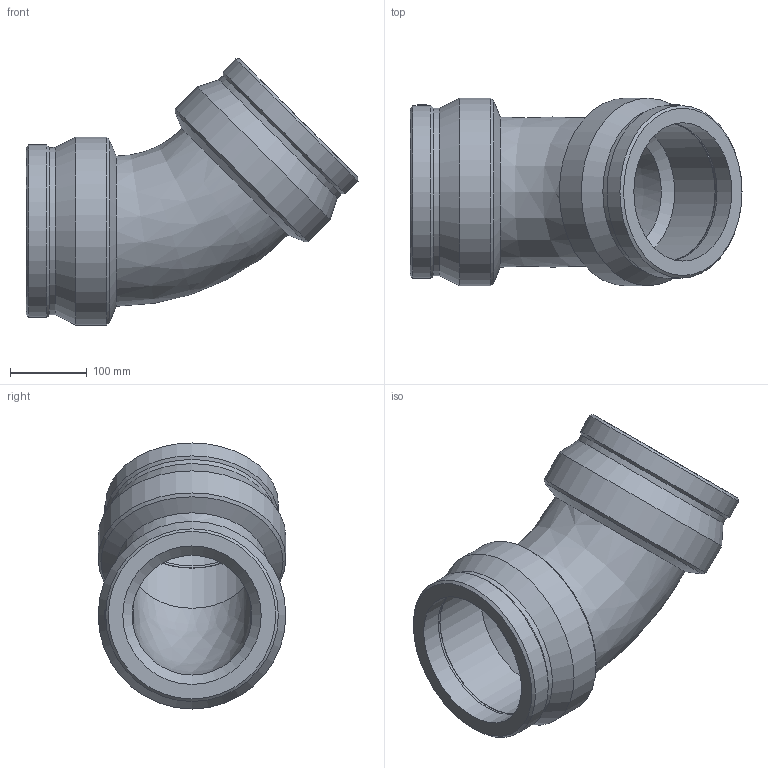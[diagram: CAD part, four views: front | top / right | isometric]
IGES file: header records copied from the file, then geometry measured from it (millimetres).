
Global section: file name: 490604180.ipt; native system: Autodesk Inventor 2015; preprocessor: unknown; author: KIM; date: 20171106.093658; units: millimetre
Bounding box: 431.62 x 244 x 345.88 mm (x, y, z)
Volume: 5910360.5 mm3; surface area: 551593.6 mm2
Topology: 1 solids, 1 shells, 42 faces, 98 edges, 64 vertices
Faces by surface type: revolution 12, cone 10, cylinder 10, plane 10
Full cylindrical faces by diameter (mm): 4.8 x2, 12 x2, 217.746 x2, 224.48 x2, 244 x2
